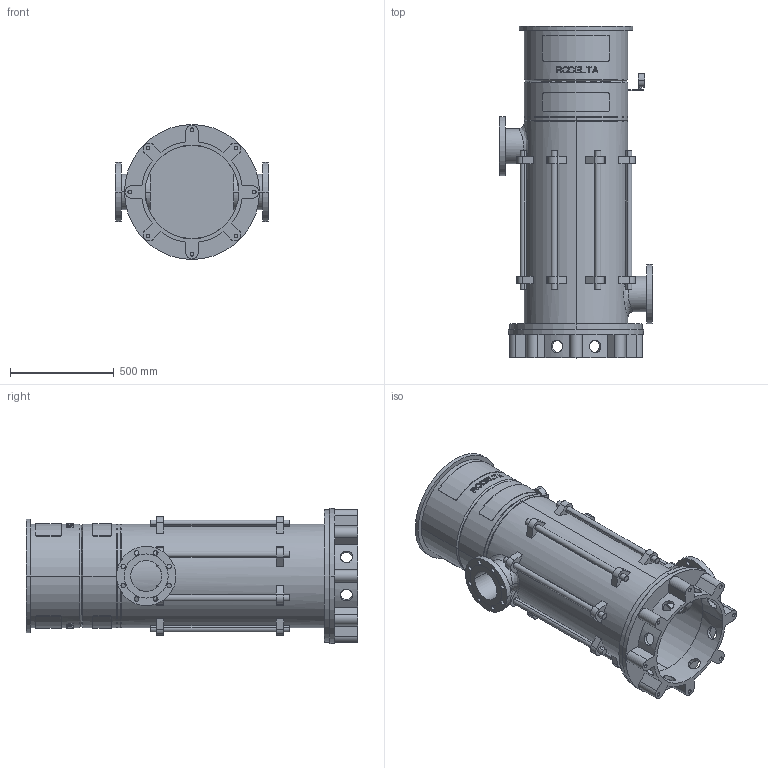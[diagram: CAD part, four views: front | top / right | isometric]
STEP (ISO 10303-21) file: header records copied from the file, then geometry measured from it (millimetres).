
FILE_DESCRIPTION((''),'2;1');
FILE_NAME('LS6_4TR_0GR_PN16_ABOVE_30KW','2025-10-23T13:59:28',('Lyritlocal'),(''),'CREO PARAMETRIC BY PTC INC, 2022014','CREO PARAMETRIC BY PTC INC, 2022014','');
FILE_SCHEMA(('CONFIG_CONTROL_DESIGN'));
Length unit declared in the file: millimetre
Products named in the file (1): LS6_4TR_0GR_PN16_ABOVE_30KW
Bounding box: 740 x 1597 x 650 mm (x, y, z)
Volume: 53239382.1 mm3; surface area: 7315314.1 mm2
Topology: 3 solids, 11 shells, 732 faces, 1889 edges, 1258 vertices
Faces by surface type: plane 438, cylinder 274, cone 12, bspline 8
Entity records: 24303 total; most frequent: CARTESIAN_POINT 6483, ORIENTED_EDGE 3746, DIRECTION 3535, EDGE_CURVE 1889, AXIS2_PLACEMENT_3D 1341, VERTEX_POINT 1258, EDGE_LOOP 895, VECTOR 853
